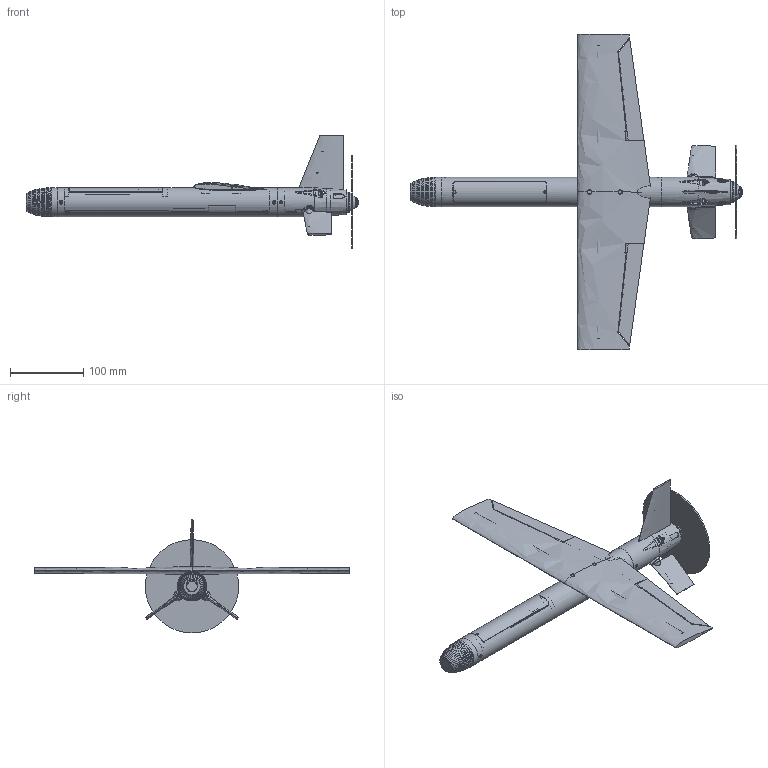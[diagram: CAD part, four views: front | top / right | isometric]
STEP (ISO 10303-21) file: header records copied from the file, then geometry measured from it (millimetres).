
FILE_DESCRIPTION(('SkyG Speed 90B - revision C6B-3 - 2026-10-08','C6B-assembly'),'2;1');
FILE_NAME('C6B-assembly_C6B-3','2026-10-08T03:13:12',('Author'),( 'Open CASCADE'),'Open CASCADE STEP processor 7.9','Open CASCADE 7.9' ,'Unknown');
FILE_SCHEMA(('AUTOMOTIVE_DESIGN { 1 0 10303 214 1 1 1 1 }'));
Length unit declared in the file: millimetre
Products named in the file (138): C4; N0M-nose-micro-camera; N0M-vtx-shelf; F3-tail-module; WR-wing-right; WL-wing-left; AR-aileron-right; AL-aileron-left; SR-stabilator-right; SL-stabilator-left; FN-fin; AHR-aileron-horn-right; AHL-aileron-horn-left; THR-tail-horn-right; THL-tail-horn-left; TR-equipment-tray; TC-tail-coupler; CW-countersunk-washer; NB1-wing-nut-bar-front; NB2-wing-nut-bar-rear; HL1-hatch-lip-front; HL2-hatch-lip-rear; HF-front-hatch; HG-gps-carrier; M1-motor-plate; SP-spinner; ENV-motor; ENV-prop_disc; ENV-prop_hub_nut; ENV-battery; ENV-camera_micro19; ENV-cam_screws; ENV-O_o4_camera; ENV-O_o4_screws; ENV-O_o4_module; ENV-vtx; ENV-gnss; ENV-flight_controller; ENV-ail_servo_arm; ENV-ail_rod_R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
Assembly tree (137 placements, depth 2):
  C4
    N0M-nose-micro-camera
    N0M-vtx-shelf
    F3-tail-module
    WR-wing-right
    WL-wing-left
    AR-aileron-right
    AL-aileron-left
    SR-stabilator-right
    SL-stabilator-left
    FN-fin
    AHR-aileron-horn-right
    AHL-aileron-horn-left
    THR-tail-horn-right
    THL-tail-horn-left
    TR-equipment-tray
    TC-tail-coupler
    CW-countersunk-washer
    NB1-wing-nut-bar-front
    NB2-wing-nut-bar-rear
    HL1-hatch-lip-front
    HL2-hatch-lip-rear
    HF-front-hatch
    HG-gps-carrier
    M1-motor-plate
    SP-spinner
    ENV-motor
    ENV-prop_disc
    ENV-prop_hub_nut
    ENV-battery
    ENV-camera_micro19
    ENV-cam_screws
    ENV-O_o4_camera
    ENV-O_o4_screws
    ENV-O_o4_module
    ENV-vtx
    ENV-gnss
    ENV-flight_controller
    ENV-ail_servo_arm
    ENV-ail_rod_R
    ENV-ail_link_R
    ENV-ail_rod_L
    ENV-ail_link_L
    ENV-ail_spine_R
    ENV-ail_spine_L
    ENV-receiver
    ENV-ant_elrs
    ENV-ant_vtx
    ENV-O_ant_video
    ENV-aileron_servo
    ENV-tail_servo_L
    ENV-tail_servo_R
    ENV-esc
    ENV-tail_servo_arm_R
    ENV-tail_link_R
    ENV-tail_servo_arm_L
    ENV-tail_link_L
    ENV-wire_video__red
    ENV-wire_video__black
    ENV-wire_video__yellow
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Bounding box: 452.19 x 430 x 155.1 mm (x, y, z)
Volume: 470539.9 mm3; surface area: 338360 mm2
Topology: 174 solids, 174 shells, 2223 faces, 5555 edges, 3674 vertices
Faces by surface type: plane 1398, cylinder 440, bspline 219, cone 126, torus 15, sphere 14, revolution 11
Full cylindrical faces by diameter (mm): 0.98 x6, 1.107 x11, 1.2 x22, 1.25 x8, 1.5 x2, 1.6 x26, 1.9 x1, 2 x26, 2.1 x2, 2.2 x12, 2.5 x2, 2.6 x6, 2.842 x6, 3 x13, 3.05 x2, 3.2 x4, 3.8 x2, 3.9 x3, 3.94 x3, 4 x4, 4.9 x8, 5 x12, 5.2 x3, 5.5 x4, 5.6 x3, 6 x3, 9 x1, 9.2 x1, 12.7 x1, 13 x2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
Entity records: 368025 total; most frequent: CARTESIAN_POINT 261857, DIRECTION 16430, ORIENTED_EDGE 11082, PCURVE 11082, DEFINITIONAL_REPRESENTATION 11082, LINE 7605, VECTOR 7605, B_SPLINE_CURVE_WITH_KNOTS 5562
